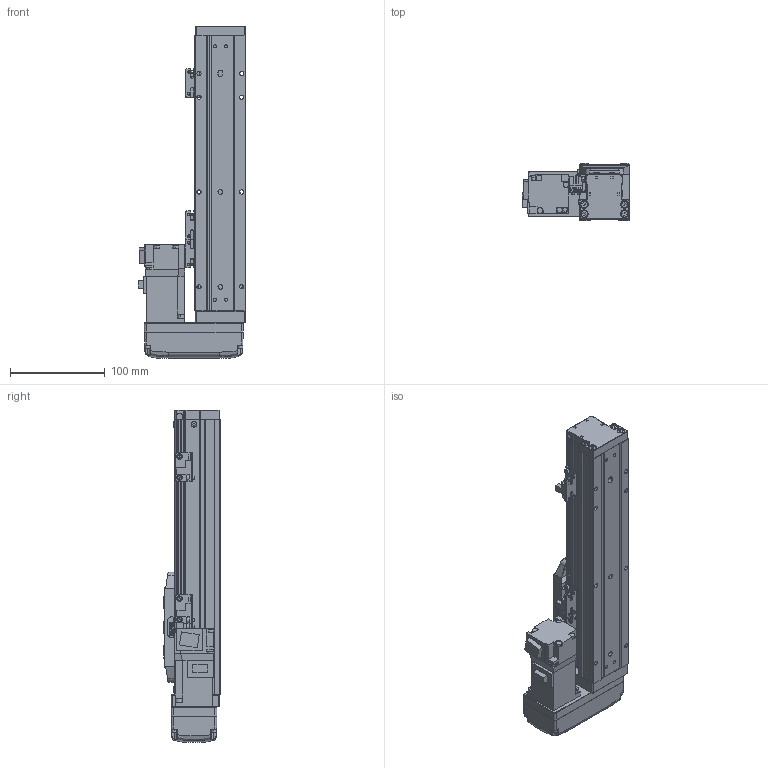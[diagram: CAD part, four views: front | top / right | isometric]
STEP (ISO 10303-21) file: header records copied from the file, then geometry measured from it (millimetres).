
FILE_DESCRIPTION (( 'STEP AP203' ), '1' );
FILE_NAME ('GTH5-150-BL-M10-C4.step', '2022-09-23T00:43:34', ( '微软用户' ), ( '微软中国' ), 'SwSTEP 2.0', 'SolidWorks 2020', '' );
FILE_SCHEMA (( 'CONFIG_CONTROL_DESIGN' ));
Length unit declared in the file: millimetre
Products named in the file (19): GBT96.1-2002 3×0.8; GTH50-026; GTH50-001_150; GTH50-024; GTH5-150-BL-M10-C4; GBT 70.1-M4×16; GBT 70.1-M2.5×6; GTH50-003; GTH50-028; GTH50-006; GTH50-013; GTH50-022-1; GTH50-004; GTH50-023; HG-KR13; GBT 70.3-M3℅6; GBT 70.1-M3℅6; GTH50-027-1_BTHA50-027-2; BTH-M3X5X6
Assembly tree (57 placements, depth 2):
  GTH5-150-BL-M10-C4
    GTH50-006
    GTH50-004
    GBT 70.3-M3℅6  x4
    BTH-M3X5X6  x8
    GTH50-001_150
    GBT 70.1-M4×16  x8
    GTH50-003
    GTH50-013
    GTH50-023  x3
    GBT 70.1-M3℅6  x12
    GBT96.1-2002 3×0.8  x6
    GTH50-024  x3
    GBT 70.1-M2.5×6  x2
    GTH50-028  x2
    GTH50-022-1
    HG-KR13
    GTH50-027-1_BTHA50-027-2
    GTH50-026
Bounding box: 113.8 x 60 x 350 mm (x, y, z)
Volume: 896654.2 mm3; surface area: 195533.6 mm2
Topology: 59 solids, 59 shells, 2144 faces, 4968 edges, 3044 vertices
Faces by surface type: plane 1142, cylinder 573, cone 219, torus 162, bspline 40, sphere 8
Entity records: 39568 total; most frequent: CARTESIAN_POINT 7851, DIRECTION 6073, ORIENTED_EDGE 5850, EDGE_CURVE 2925, AXIS2_PLACEMENT_3D 2104, VECTOR 1865, LINE 1865, VERTEX_POINT 1846
